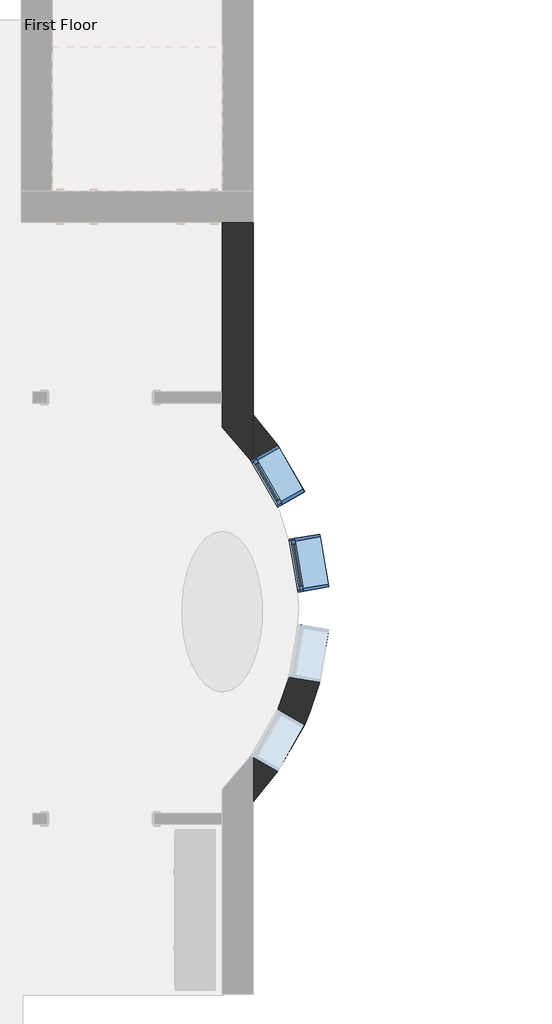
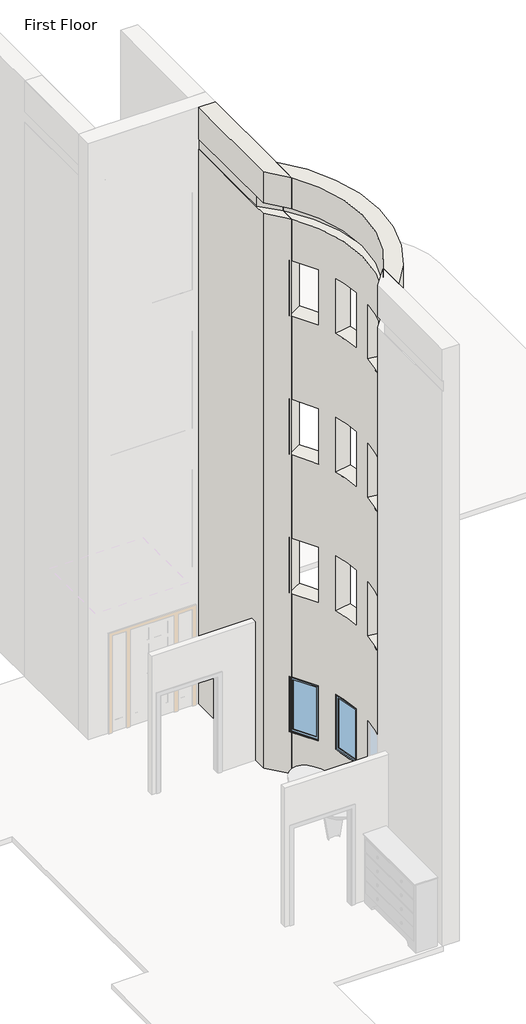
# One storey, part 10 of 24: 2 walls, 2 windows.
"""IFC4 building model written with IfcOpenShell, lengths in millimetres."""

from ifc_helpers import new_model, si_unit, frame, origin, place, context, project, spatial, polyline, circle_curve, transform, mapped, element, save
from ifc_brep_helpers import plane_surface, cylinder_surface, revolved_surface, advanced_brep
from components import window_ed80354a

model = new_model("IFC4")

# Units and contexts
model_context = context("Model", 3, world=origin())
ifc_project = project(units=[si_unit("LENGTHUNIT", "METRE", prefix="MILLI")], contexts=[model_context])

# Site, building, storey
site = spatial("IfcSite", under=ifc_project)
building = spatial("IfcBuilding", under=site)
storey = spatial("IfcBuildingStorey", under=building, Name="First Floor", Elevation=0.0)

# Walls
placement = place(None, origin())
element("IfcWall", 1, ObjectType="Exterior - Brick on Mtl. Stud", at=placement, inside=storey, context=model_context, shape_type="AdvancedBrep", body=[
    advanced_brep(
    [(-23874.3839563, -550.3808133, 0.0), (-23874.3839563, -2483.9558133, 0.0), (-23874.3839563, -2610.9558133, 0.0), (-23874.3839563, -2885.7839656, 0.0), (-23874.3839563, -2885.7839656, 12192.0), (-23874.3839563, -2610.9558133, 12192.0), (-23874.3839563, -2483.9558133, 12192.0), (-23874.3839563, -550.3808133, 12192.0), (-23874.3839563, -2885.7839656, 13106.4), (-23874.3839563, -550.3808133, 13106.4), (-23874.3839563, -550.3808133, 12420.6), (-23874.3839563, -2885.7839656, 12420.6), (-23521.9589563, -3299.6776635, 0.0), (-23521.9589563, -2741.7830793, 0.0), (-23521.9589563, -550.3808133, 0.0), (-23521.9589563, -550.3808133, 13106.4), (-23521.9589563, -2741.7830793, 13106.4), (-23521.9589563, -3299.6776635, 13106.4), (-23521.9589563, -3299.6776635, 12420.6), (-23521.9589563, -2991.1907425, 12420.6), (-23521.9589563, -2991.1907425, 12192.0), (-23521.9589563, -3299.6776635, 12192.0), (-23521.9589563, -3299.6776635, 11277.6), (-23521.9589563, -3250.3894156, 11277.6), (-23521.9589563, -3250.3894156, 10058.4), (-23521.9589563, -3299.6776635, 10058.4), (-23521.9589563, -3299.6776635, 8229.6), (-23521.9589563, -3250.3894156, 8229.6), (-23521.9589563, -3250.3894156, 7010.4), (-23521.9589563, -3299.6776635, 7010.4), (-23521.9589563, -3299.6776635, 5181.6), (-23521.9589563, -3250.3894156, 5181.6), (-23521.9589563, -3250.3894156, 3962.4), (-23521.9589563, -3299.6776635, 3962.4), (-23521.9589563, -3299.6776635, 2133.6), (-23521.9589563, -3250.3894156, 2133.6), (-23521.9589563, -3250.3894156, 914.4), (-23521.9589563, -3299.6776635, 914.4), (-23527.515008, -3291.7661617, 914.4), (-23527.515008, -3291.7661617, 2133.6), (-23527.515008, -3291.7661617, 3962.4), (-23527.515008, -3291.7661617, 5181.6), (-23527.515008, -3291.7661617, 7010.4), (-23527.515008, -3291.7661617, 8229.6), (-23527.515008, -3291.7661617, 10058.4), (-23527.515008, -3291.7661617, 11277.6), (-23861.6839563, -550.3808133, 12192.0), (-23861.6839563, -550.3808133, 12420.6), (-23543.9721676, -3262.9701473, 914.4), (-23543.9721676, -3262.9701473, 2133.6), (-23543.9721676, -3262.9701473, 10058.4), (-23543.9721676, -3262.9701473, 11277.6), (-23543.9721676, -3262.9701473, 3962.4), (-23543.9721676, -3262.9701473, 5181.6), (-23543.9721676, -3262.9701473, 7010.4), (-23543.9721676, -3262.9701473, 8229.6), (-23861.6839563, -2642.86294, 12192.0), (-23861.6839563, -2642.86294, 12420.6)],
    [
        (0, 1),
        (1, 2),
        (2, 3),
        (3, 4),
        (4, 5),
        (5, 6),
        (6, 7),
        (7, 0),
        (8, 9),
        (9, 10),
        (10, 11),
        (11, 8),
        (12, 13),
        (13, 14),
        (14, 15),
        (15, 16),
        (16, 17),
        (17, 18),
        (18, 19),
        (19, 20),
        (20, 21),
        (21, 22),
        (22, 23),
        (23, 24),
        (24, 25),
        (25, 26),
        (26, 27),
        (27, 28),
        (28, 29),
        (29, 30),
        (30, 31),
        (31, 32),
        (32, 33),
        (33, 34),
        (34, 35),
        (35, 36),
        (36, 37),
        (37, 12),
        (0, 14),
        (12, 3, circle_curve(frame((-25874.8788413, -4946.1683133, 0.0), z_axis=(0.0, 0.0, 1.0), x_axis=(0.0, 1.0, 0.0)), 2871.7875)),
        (8, 17, circle_curve(frame((-25874.8788413, -4946.1683133, 13106.4), z_axis=(0.0, 0.0, -1.0), x_axis=(0.0, 1.0, 0.0)), 2871.7875)),
        (15, 9),
        (37, 38, circle_curve(frame((-25874.8788413, -4946.1683133, 914.4), z_axis=(0.0, 0.0, 1.0), x_axis=(0.0, 1.0, 0.0)), 2871.7875)),
        (38, 39),
        (39, 34, circle_curve(frame((-25874.8788413, -4946.1683133, 2133.6), z_axis=(0.0, 0.0, -1.0), x_axis=(0.0, 1.0, 0.0)), 2871.7875)),
        (33, 40, circle_curve(frame((-25874.8788413, -4946.1683133, 3962.4), z_axis=(0.0, 0.0, 1.0), x_axis=(0.0, 1.0, 0.0)), 2871.7875)),
        (40, 41),
        (41, 30, circle_curve(frame((-25874.8788413, -4946.1683133, 5181.6), z_axis=(0.0, 0.0, -1.0), x_axis=(0.0, 1.0, 0.0)), 2871.7875)),
        (29, 42, circle_curve(frame((-25874.8788413, -4946.1683133, 7010.4), z_axis=(0.0, 0.0, 1.0), x_axis=(0.0, 1.0, 0.0)), 2871.7875)),
        (42, 43),
        (43, 26, circle_curve(frame((-25874.8788413, -4946.1683133, 8229.6), z_axis=(0.0, 0.0, -1.0), x_axis=(0.0, 1.0, 0.0)), 2871.7875)),
        (25, 44, circle_curve(frame((-25874.8788413, -4946.1683133, 10058.4), z_axis=(0.0, 0.0, 1.0), x_axis=(0.0, 1.0, 0.0)), 2871.7875)),
        (44, 45),
        (45, 22, circle_curve(frame((-25874.8788413, -4946.1683133, 11277.6), z_axis=(0.0, 0.0, -1.0), x_axis=(0.0, 1.0, 0.0)), 2871.7875)),
        (21, 4, circle_curve(frame((-25874.8788413, -4946.1683133, 12192.0), z_axis=(0.0, 0.0, 1.0), x_axis=(0.0, 1.0, 0.0)), 2871.7875)),
        (11, 18, circle_curve(frame((-25874.8788413, -4946.1683133, 12420.6), z_axis=(0.0, 0.0, -1.0), x_axis=(0.0, 1.0, 0.0)), 2871.7875)),
        (7, 46),
        (46, 47),
        (47, 10),
        (48, 49),
        (49, 39),
        (38, 48),
        (36, 48),
        (35, 49),
        (50, 51),
        (51, 45),
        (44, 50),
        (24, 50),
        (23, 51),
        (52, 53),
        (53, 41),
        (40, 52),
        (32, 52),
        (31, 53),
        (54, 55),
        (55, 43),
        (42, 54),
        (28, 54),
        (27, 55),
        (20, 56, circle_curve(frame((-25874.8788413, -4946.1683133, 12192.0), z_axis=(0.0, 0.0, 1.0), x_axis=(0.0, -1.0, 0.0)), 3059.1125)),
        (56, 46),
        (47, 57),
        (57, 19, circle_curve(frame((-25874.8788413, -4946.1683133, 12420.6), z_axis=(0.0, 0.0, -1.0), x_axis=(0.0, -1.0, 0.0)), 3059.1125)),
        (56, 57),
    ],
    [
        plane_surface(frame((-23874.3839563, -374.1683133, 0.0), z_axis=(-1.0, 0.0, 0.0), x_axis=(0.0, -1.0, 0.0))),
        plane_surface(frame((-23521.9589563, -374.1683133, 0.0), z_axis=(1.0, 0.0, 0.0), x_axis=(0.0, 1.0, 0.0))),
        plane_surface(frame((-23874.3839563, -374.1683133, 0.0), z_axis=(0.0, 0.0, -1.0), x_axis=(1.0, 0.0, 0.0))),
        plane_surface(frame((-23874.3839563, -2812.5683133, 13106.4), z_axis=(0.0, 0.0, 1.0), x_axis=(1.0, 0.0, 0.0))),
        revolved_surface(polyline([(-25874.8788413, -2074.3808132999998, 0.0), (-25874.8788413, -2074.3808132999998, 12192.0)]), (-25874.8788413, -4946.1683133, 0.0), (0.0, 0.0, -1.0)),
        revolved_surface(polyline([(-25874.8788413, -2074.3808132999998, 12420.6), (-25874.8788413, -2074.3808132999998, 13106.4)]), (-25874.8788413, -4946.1683133, 0.0), (0.0, 0.0, -1.0)),
        plane_surface(frame((-25984.1714563, -550.3808133, 0.0), z_axis=(0.0, 1.0, 0.0), x_axis=(1.0, 0.0, 0.0))),
        plane_surface(frame((-23241.4940834, -3792.2330013, 2133.6), z_axis=(0.8682133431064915, 0.49619108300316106, 0.0), x_axis=(0.0, 0.0, 1.0))),
        plane_surface(frame((-22936.8858198, -3618.1468675, 914.4), z_axis=(0.0, 0.0, 1.0000000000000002), x_axis=(-0.8682133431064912, -0.4961910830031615, 0.0))),
        plane_surface(frame((-23239.363904, -3088.8840135, 914.4), z_axis=(0.49619108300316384, -0.8682133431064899, 0.0), x_axis=(-0.8682133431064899, -0.49619108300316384, 0.0))),
        plane_surface(frame((-23239.363904, -3088.8840135, 2133.6), z_axis=(0.0, 0.0, -1.0000000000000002), x_axis=(-0.8682133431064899, -0.49619108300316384, 0.0))),
        plane_surface(frame((-23241.4940834, -3792.2330013, 11277.6), z_axis=(0.8682133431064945, 0.4961910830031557, 0.0), x_axis=(0.0, 0.0, 1.0))),
        plane_surface(frame((-22936.8858198, -3618.1468675, 10058.4), z_axis=(0.0, 0.0, 1.0), x_axis=(-0.8682133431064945, -0.4961910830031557, 0.0))),
        plane_surface(frame((-23239.363904, -3088.8840135, 10058.4), z_axis=(0.4961910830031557, -0.8682133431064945, 0.0), x_axis=(-0.8682133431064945, -0.4961910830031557, 0.0))),
        plane_surface(frame((-23239.363904, -3088.8840135, 11277.6), z_axis=(0.0, 0.0, -1.0), x_axis=(-0.8682133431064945, -0.4961910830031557, 0.0))),
        plane_surface(frame((-23241.4940834, -3792.2330013, 5181.6), z_axis=(0.8682133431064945, 0.4961910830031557, 0.0), x_axis=(0.0, 0.0, 1.0))),
        plane_surface(frame((-22936.8858198, -3618.1468675, 3962.4), z_axis=(0.0, 0.0, 1.0), x_axis=(-0.8682133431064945, -0.4961910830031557, 0.0))),
        plane_surface(frame((-23239.363904, -3088.8840135, 3962.4), z_axis=(0.4961910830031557, -0.8682133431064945, 0.0), x_axis=(-0.8682133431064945, -0.4961910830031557, 0.0))),
        plane_surface(frame((-23239.363904, -3088.8840135, 5181.6), z_axis=(0.0, 0.0, -1.0), x_axis=(-0.8682133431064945, -0.4961910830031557, 0.0))),
        plane_surface(frame((-23241.4940834, -3792.2330013, 8229.6), z_axis=(0.8682133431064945, 0.4961910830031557, 0.0), x_axis=(0.0, 0.0, 1.0))),
        plane_surface(frame((-22936.8858198, -3618.1468675, 7010.4), z_axis=(0.0, 0.0, 1.0), x_axis=(-0.8682133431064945, -0.4961910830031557, 0.0))),
        plane_surface(frame((-23239.363904, -3088.8840135, 7010.4), z_axis=(0.4961910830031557, -0.8682133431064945, 0.0), x_axis=(-0.8682133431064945, -0.4961910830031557, 0.0))),
        plane_surface(frame((-23239.363904, -3088.8840135, 8229.6), z_axis=(0.0, 0.0, -1.0), x_axis=(-0.8682133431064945, -0.4961910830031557, 0.0))),
        plane_surface(frame((-29630.6589563, -11640.6558133, 12192.0), z_axis=(0.0, 0.0, 1.0), x_axis=(1.0, 0.0, 0.0))),
        plane_surface(frame((-29630.6589563, -11640.6558133, 12420.6), z_axis=(0.0, 0.0, -1.0), x_axis=(1.0, 0.0, 0.0))),
        plane_surface(frame((-23861.6839563, -2642.86294, 12192.0), z_axis=(-1.0, 0.0, 0.0), x_axis=(0.0, 1.0, 0.0))),
        revolved_surface(polyline([(-25874.8788413, -8005.2808133, 12420.6), (-25874.8788413, -8005.2808133, 12192.0)]), (-25874.8788413, -4946.1683133, 12192.0), (0.0, 0.0, 1.0)),
    ],
    [
        (0, [[1, 2, 3, 4, 5, 6, 7, 8]]),
        (0, [[9, 10, 11, 12]]),
        (1, [[13, 14, 15, 16, 17, 18, 19, 20, 21, 22, 23, 24, 25, 26, 27, 28, 29, 30, 31, 32, 33, 34, 35, 36, 37, 38]]),
        (2, [[-3, -2, -1, 39, -14, -13, 40]]),
        (3, [[-9, 41, -17, -16, 42]]),
        (4, [[-40, -38, 43, 44, 45, -34, 46, 47, 48, -30, 49, 50, 51, -26, 52, 53, 54, -22, 55, -4]]),
        (5, [[-41, -12, 56, -18]]),
        (6, [[-42, -15, -39, -8, 57, 58, 59, -10]]),
        (7, [[60, 61, -44, 62]]),
        (8, [[63, -62, -43, -37]]),
        (9, [[-60, -63, -36, 64]]),
        (10, [[-64, -35, -45, -61]]),
        (11, [[65, 66, -53, 67]]),
        (12, [[68, -67, -52, -25]]),
        (13, [[-65, -68, -24, 69]]),
        (14, [[-69, -23, -54, -66]]),
        (15, [[70, 71, -47, 72]]),
        (16, [[73, -72, -46, -33]]),
        (17, [[-70, -73, -32, 74]]),
        (18, [[-74, -31, -48, -71]]),
        (19, [[75, 76, -50, 77]]),
        (20, [[78, -77, -49, -29]]),
        (21, [[-75, -78, -28, 79]]),
        (22, [[-79, -27, -51, -76]]),
        (23, [[80, 81, -57, -7, -6, -5, -55, -21]]),
        (24, [[82, 83, -19, -56, -11, -59]]),
        (25, [[84, -82, -58, -81]]),
        (26, [[-84, -80, -20, -83]]),
    ],
),
])
element("IfcWall", 2, ObjectType="Exterior - Brick on Mtl. Stud", at=placement, inside=storey, context=model_context, shape_type="AdvancedBrep", body=[
    advanced_brep(
    [(-23521.9589563, -3299.6776635, 13106.4), (-23521.9589563, -6592.6589631, 13106.4), (-23521.9589563, -7150.5535473, 13106.4), (-23521.9589563, -2741.7830793, 13106.4), (-23521.9589563, -6592.6589631, 0.0), (-23521.9589563, -3299.6776635, 0.0), (-23521.9589563, -2741.7830793, 0.0), (-23521.9589563, -7150.5535473, 0.0), (-23521.9589563, -3299.6776635, 12420.6), (-23521.9589563, -6592.6589631, 12420.6), (-23521.9589563, -6592.6589631, 914.4), (-23244.3988057, -6098.4435526, 914.4), (-23244.3988057, -6098.4435526, 2133.6), (-23521.9589563, -6592.6589631, 2133.6), (-23521.9589563, -6592.6589631, 3962.4), (-23244.3988057, -6098.4435526, 3962.4), (-23244.3988057, -6098.4435526, 5181.6), (-23521.9589563, -6592.6589631, 5181.6), (-23521.9589563, -6592.6589631, 7010.4), (-23244.3988057, -6098.4435526, 7010.4), (-23244.3988057, -6098.4435526, 8229.6), (-23521.9589563, -6592.6589631, 8229.6), (-23521.9589563, -6592.6589631, 10058.4), (-23244.3988057, -6098.4435526, 10058.4), (-23244.3988057, -6098.4435526, 11277.6), (-23521.9589563, -6592.6589631, 11277.6), (-23521.9589563, -6592.6589631, 12192.0), (-23521.9589563, -3299.6776635, 12192.0), (-23521.9589563, -3299.6776635, 11277.6), (-23244.3988057, -3793.893074, 11277.6), (-23244.3988057, -3793.893074, 10058.4), (-23521.9589563, -3299.6776635, 10058.4), (-23521.9589563, -3299.6776635, 8229.6), (-23244.3988057, -3793.893074, 8229.6), (-23244.3988057, -3793.893074, 7010.4), (-23521.9589563, -3299.6776635, 7010.4), (-23521.9589563, -3299.6776635, 5181.6), (-23244.3988057, -3793.893074, 5181.6), (-23244.3988057, -3793.893074, 3962.4), (-23521.9589563, -3299.6776635, 3962.4), (-23521.9589563, -3299.6776635, 2133.6), (-23244.3988057, -3793.893074, 2133.6), (-23244.3988057, -3793.893074, 914.4), (-23521.9589563, -3299.6776635, 914.4), (-23009.0115527, -4761.8638671, 8229.6), (-23009.0115527, -4761.8638671, 7010.4), (-23112.4803586, -4161.1090368, 7010.4), (-23112.4803586, -4161.1090368, 8229.6), (-23009.0115527, -5130.4727595, 7010.4), (-23009.0115527, -5130.4727595, 8229.6), (-23112.4803586, -5731.2275899, 8229.6), (-23112.4803586, -5731.2275899, 7010.4), (-23009.0115527, -4761.8638671, 5181.6), (-23009.0115527, -4761.8638671, 3962.4), (-23112.4803586, -4161.1090368, 3962.4), (-23112.4803586, -4161.1090368, 5181.6), (-23009.0115527, -5130.4727595, 3962.4), (-23009.0115527, -5130.4727595, 5181.6), (-23112.4803586, -5731.2275899, 5181.6), (-23112.4803586, -5731.2275899, 3962.4), (-23009.0115527, -4761.8638671, 11277.6), (-23009.0115527, -4761.8638671, 10058.4), (-23112.4803586, -4161.1090368, 10058.4), (-23112.4803586, -4161.1090368, 11277.6), (-23009.0115527, -5130.4727595, 10058.4), (-23009.0115527, -5130.4727595, 11277.6), (-23112.4803586, -5731.2275899, 11277.6), (-23112.4803586, -5731.2275899, 10058.4), (-23009.0115527, -4761.8638671, 2133.6), (-23009.0115527, -4761.8638671, 914.4), (-23112.4803586, -4161.1090368, 914.4), (-23112.4803586, -4161.1090368, 2133.6), (-23009.0115527, -5130.4727595, 914.4), (-23009.0115527, -5130.4727595, 2133.6), (-23112.4803586, -5731.2275899, 2133.6), (-23112.4803586, -5731.2275899, 914.4), (-22936.8719855, -6274.1976656, 2133.6), (-22936.8719855, -6274.1976656, 914.4), (-23239.3500697, -6803.4605195, 914.4), (-23239.3500697, -6803.4605195, 2133.6), (-22936.8719855, -3618.1389611, 914.4), (-22936.8719855, -3618.1389611, 2133.6), (-23239.3500697, -3088.8761071, 2133.6), (-23239.3500697, -3088.8761071, 914.4), (-22936.8719855, -6274.1976656, 11277.6), (-22936.8719855, -6274.1976656, 10058.4), (-23239.3500697, -6803.4605195, 10058.4), (-23239.3500697, -6803.4605195, 11277.6), (-22936.8719855, -3618.1389611, 10058.4), (-22936.8719855, -3618.1389611, 11277.6), (-23239.3500697, -3088.8761071, 11277.6), (-23239.3500697, -3088.8761071, 10058.4), (-22936.8719855, -6274.1976656, 5181.6), (-22936.8719855, -6274.1976656, 3962.4), (-23239.3500697, -6803.4605195, 3962.4), (-23239.3500697, -6803.4605195, 5181.6), (-22936.8719855, -3618.1389611, 3962.4), (-22936.8719855, -3618.1389611, 5181.6), (-23239.3500697, -3088.8761071, 5181.6), (-23239.3500697, -3088.8761071, 3962.4), (-22936.8719855, -6274.1976656, 8229.6), (-22936.8719855, -6274.1976656, 7010.4), (-23239.3500697, -6803.4605195, 7010.4), (-23239.3500697, -6803.4605195, 8229.6), (-22936.8719855, -3618.1389611, 7010.4), (-22936.8719855, -3618.1389611, 8229.6), (-23239.3500697, -3088.8761071, 8229.6), (-23239.3500697, -3088.8761071, 7010.4), (-22659.9445035, -4701.7435836, 7010.4), (-22659.9445035, -4701.7435836, 8229.6), (-22763.4133094, -4100.9887532, 8229.6), (-22763.4133094, -4100.9887532, 7010.4), (-22659.9445035, -5190.5930431, 8229.6), (-22659.9445035, -5190.5930431, 7010.4), (-22763.4133094, -5791.3478734, 7010.4), (-22763.4133094, -5791.3478734, 8229.6), (-22659.9445035, -4701.7435836, 3962.4), (-22659.9445035, -4701.7435836, 5181.6), (-22763.4133094, -4100.9887532, 5181.6), (-22763.4133094, -4100.9887532, 3962.4), (-22659.9445035, -5190.5930431, 5181.6), (-22659.9445035, -5190.5930431, 3962.4), (-22763.4133094, -5791.3478734, 3962.4), (-22763.4133094, -5791.3478734, 5181.6), (-22659.9445035, -4701.7435836, 10058.4), (-22659.9445035, -4701.7435836, 11277.6), (-22763.4133094, -4100.9887532, 11277.6), (-22763.4133094, -4100.9887532, 10058.4), (-22659.9445035, -5190.5930431, 11277.6), (-22659.9445035, -5190.5930431, 10058.4), (-22763.4133094, -5791.3478734, 10058.4), (-22763.4133094, -5791.3478734, 11277.6), (-22659.9445035, -4701.7435836, 914.4), (-22659.9445035, -4701.7435836, 2133.6), (-22763.4133094, -4100.9887532, 2133.6), (-22763.4133094, -4100.9887532, 914.4), (-22659.9445035, -5190.5930431, 2133.6), (-22659.9445035, -5190.5930431, 914.4), (-22763.4133094, -5791.3478734, 914.4), (-22763.4133094, -5791.3478734, 2133.6), (-23521.9589563, -3250.3894156, 914.4), (-23521.9589563, -3250.3894156, 2133.6), (-23521.9589563, -3250.3894156, 3962.4), (-23521.9589563, -3250.3894156, 5181.6), (-23521.9589563, -3250.3894156, 7010.4), (-23521.9589563, -3250.3894156, 8229.6), (-23521.9589563, -3250.3894156, 10058.4), (-23521.9589563, -3250.3894156, 11277.6), (-23521.9589563, -2991.1907425, 12192.0), (-23521.9589563, -2991.1907425, 12420.6), (-23521.9589563, -6901.1458841, 12420.6), (-23521.9589563, -6901.1458841, 12192.0), (-23521.9589563, -6641.947211, 11277.6), (-23521.9589563, -6641.947211, 10058.4), (-23521.9589563, -6641.947211, 8229.6), (-23521.9589563, -6641.947211, 7010.4), (-23521.9589563, -6641.947211, 5181.6), (-23521.9589563, -6641.947211, 3962.4), (-23521.9589563, -6641.947211, 2133.6), (-23521.9589563, -6641.947211, 914.4)],
    [
        (0, 1, circle_curve(frame((-25874.8788413, -4946.1683133, 13106.4), z_axis=(0.0, 0.0, -1.0), x_axis=(0.0, 1.0, 0.0)), 2871.7875)),
        (1, 2),
        (2, 3, circle_curve(frame((-25874.8788413, -4946.1683133, 13106.4), z_axis=(0.0, 0.0, 1.0), x_axis=(0.0, 1.0, 0.0)), 3224.2125)),
        (3, 0),
        (4, 5, circle_curve(frame((-25874.8788413, -4946.1683133, 0.0), z_axis=(0.0, 0.0, 1.0), x_axis=(0.0, 1.0, 0.0)), 2871.7875)),
        (5, 6),
        (6, 7, circle_curve(frame((-25874.8788413, -4946.1683133, 0.0), z_axis=(0.0, 0.0, -1.0), x_axis=(0.0, 1.0, 0.0)), 3224.2125)),
        (7, 4),
        (0, 8),
        (8, 9, circle_curve(frame((-25874.8788413, -4946.1683133, 12420.6), z_axis=(0.0, 0.0, -1.0), x_axis=(0.0, 1.0, 0.0)), 2871.7875)),
        (9, 1),
        (4, 10),
        (10, 11, circle_curve(frame((-25874.8788413, -4946.1683133, 914.4), z_axis=(0.0, 0.0, 1.0), x_axis=(0.0, 1.0, 0.0)), 2871.7875)),
        (11, 12),
        (12, 13, circle_curve(frame((-25874.8788413, -4946.1683133, 2133.6), z_axis=(0.0, 0.0, -1.0), x_axis=(0.0, 1.0, 0.0)), 2871.7875)),
        (13, 14),
        (14, 15, circle_curve(frame((-25874.8788413, -4946.1683133, 3962.4), z_axis=(0.0, 0.0, 1.0), x_axis=(0.0, 1.0, 0.0)), 2871.7875)),
        (15, 16),
        (16, 17, circle_curve(frame((-25874.8788413, -4946.1683133, 5181.6), z_axis=(0.0, 0.0, -1.0), x_axis=(0.0, 1.0, 0.0)), 2871.7875)),
        (17, 18),
        (18, 19, circle_curve(frame((-25874.8788413, -4946.1683133, 7010.4), z_axis=(0.0, 0.0, 1.0), x_axis=(0.0, 1.0, 0.0)), 2871.7875)),
        (19, 20),
        (20, 21, circle_curve(frame((-25874.8788413, -4946.1683133, 8229.6), z_axis=(0.0, 0.0, -1.0), x_axis=(0.0, 1.0, 0.0)), 2871.7875)),
        (21, 22),
        (22, 23, circle_curve(frame((-25874.8788413, -4946.1683133, 10058.4), z_axis=(0.0, 0.0, 1.0), x_axis=(0.0, 1.0, 0.0)), 2871.7875)),
        (23, 24),
        (24, 25, circle_curve(frame((-25874.8788413, -4946.1683133, 11277.6), z_axis=(0.0, 0.0, -1.0), x_axis=(0.0, 1.0, 0.0)), 2871.7875)),
        (25, 26),
        (26, 27, circle_curve(frame((-25874.8788413, -4946.1683133, 12192.0), z_axis=(0.0, 0.0, 1.0), x_axis=(0.0, 1.0, 0.0)), 2871.7875)),
        (27, 28),
        (28, 29, circle_curve(frame((-25874.8788413, -4946.1683133, 11277.6), z_axis=(0.0, 0.0, -1.0), x_axis=(0.0, 1.0, 0.0)), 2871.7875)),
        (29, 30),
        (30, 31, circle_curve(frame((-25874.8788413, -4946.1683133, 10058.4), z_axis=(0.0, 0.0, 1.0), x_axis=(0.0, 1.0, 0.0)), 2871.7875)),
        (31, 32),
        (32, 33, circle_curve(frame((-25874.8788413, -4946.1683133, 8229.6), z_axis=(0.0, 0.0, -1.0), x_axis=(0.0, 1.0, 0.0)), 2871.7875)),
        (33, 34),
        (34, 35, circle_curve(frame((-25874.8788413, -4946.1683133, 7010.4), z_axis=(0.0, 0.0, 1.0), x_axis=(0.0, 1.0, 0.0)), 2871.7875)),
        (35, 36),
        (36, 37, circle_curve(frame((-25874.8788413, -4946.1683133, 5181.6), z_axis=(0.0, 0.0, -1.0), x_axis=(0.0, 1.0, 0.0)), 2871.7875)),
        (37, 38),
        (38, 39, circle_curve(frame((-25874.8788413, -4946.1683133, 3962.4), z_axis=(0.0, 0.0, 1.0), x_axis=(0.0, 1.0, 0.0)), 2871.7875)),
        (39, 40),
        (40, 41, circle_curve(frame((-25874.8788413, -4946.1683133, 2133.6), z_axis=(0.0, 0.0, -1.0), x_axis=(0.0, 1.0, 0.0)), 2871.7875)),
        (41, 42),
        (42, 43, circle_curve(frame((-25874.8788413, -4946.1683133, 914.4), z_axis=(0.0, 0.0, 1.0), x_axis=(0.0, 1.0, 0.0)), 2871.7875)),
        (43, 5),
        (44, 45),
        (45, 46, circle_curve(frame((-25874.8788413, -4946.1683133, 7010.4), z_axis=(0.0, 0.0, 1.0), x_axis=(0.0, 1.0, 0.0)), 2871.7875)),
        (46, 47),
        (47, 44, circle_curve(frame((-25874.8788413, -4946.1683133, 8229.6), z_axis=(0.0, 0.0, -1.0), x_axis=(0.0, 1.0, 0.0)), 2871.7875)),
        (48, 49),
        (49, 50, circle_curve(frame((-25874.8788413, -4946.1683133, 8229.6), z_axis=(0.0, 0.0, -1.0), x_axis=(0.0, 1.0, 0.0)), 2871.7875)),
        (50, 51),
        (51, 48, circle_curve(frame((-25874.8788413, -4946.1683133, 7010.4), z_axis=(0.0, 0.0, 1.0), x_axis=(0.0, 1.0, 0.0)), 2871.7875)),
        (52, 53),
        (53, 54, circle_curve(frame((-25874.8788413, -4946.1683133, 3962.4), z_axis=(0.0, 0.0, 1.0), x_axis=(0.0, 1.0, 0.0)), 2871.7875)),
        (54, 55),
        (55, 52, circle_curve(frame((-25874.8788413, -4946.1683133, 5181.6), z_axis=(0.0, 0.0, -1.0), x_axis=(0.0, 1.0, 0.0)), 2871.7875)),
        (56, 57),
        (57, 58, circle_curve(frame((-25874.8788413, -4946.1683133, 5181.6), z_axis=(0.0, 0.0, -1.0), x_axis=(0.0, 1.0, 0.0)), 2871.7875)),
        (58, 59),
        (59, 56, circle_curve(frame((-25874.8788413, -4946.1683133, 3962.4), z_axis=(0.0, 0.0, 1.0), x_axis=(0.0, 1.0, 0.0)), 2871.7875)),
        (60, 61),
        (61, 62, circle_curve(frame((-25874.8788413, -4946.1683133, 10058.4), z_axis=(0.0, 0.0, 1.0), x_axis=(0.0, 1.0, 0.0)), 2871.7875)),
        (62, 63),
        (63, 60, circle_curve(frame((-25874.8788413, -4946.1683133, 11277.6), z_axis=(0.0, 0.0, -1.0), x_axis=(0.0, 1.0, 0.0)), 2871.7875)),
        (64, 65),
        (65, 66, circle_curve(frame((-25874.8788413, -4946.1683133, 11277.6), z_axis=(0.0, 0.0, -1.0), x_axis=(0.0, 1.0, 0.0)), 2871.7875)),
        (66, 67),
        (67, 64, circle_curve(frame((-25874.8788413, -4946.1683133, 10058.4), z_axis=(0.0, 0.0, 1.0), x_axis=(0.0, 1.0, 0.0)), 2871.7875)),
        (68, 69),
        (69, 70, circle_curve(frame((-25874.8788413, -4946.1683133, 914.4), z_axis=(0.0, 0.0, 1.0), x_axis=(0.0, 1.0, 0.0)), 2871.7875)),
        (70, 71),
        (71, 68, circle_curve(frame((-25874.8788413, -4946.1683133, 2133.6), z_axis=(0.0, 0.0, -1.0), x_axis=(0.0, 1.0, 0.0)), 2871.7875)),
        (72, 73),
        (73, 74, circle_curve(frame((-25874.8788413, -4946.1683133, 2133.6), z_axis=(0.0, 0.0, -1.0), x_axis=(0.0, 1.0, 0.0)), 2871.7875)),
        (74, 75),
        (75, 72, circle_curve(frame((-25874.8788413, -4946.1683133, 914.4), z_axis=(0.0, 0.0, 1.0), x_axis=(0.0, 1.0, 0.0)), 2871.7875)),
        (2, 7),
        (6, 3),
        (76, 77),
        (77, 78, circle_curve(frame((-25874.8788413, -4946.1683133, 914.4), z_axis=(0.0, 0.0, -1.0), x_axis=(0.0, 1.0, 0.0)), 3224.2125)),
        (78, 79),
        (79, 76, circle_curve(frame((-25874.8788413, -4946.1683133, 2133.6), z_axis=(0.0, 0.0, 1.0), x_axis=(0.0, 1.0, 0.0)), 3224.2125)),
        (80, 81),
        (81, 82, circle_curve(frame((-25874.8788413, -4946.1683133, 2133.6), z_axis=(0.0, 0.0, 1.0), x_axis=(0.0, 1.0, 0.0)), 3224.2125)),
        (82, 83),
        (83, 80, circle_curve(frame((-25874.8788413, -4946.1683133, 914.4), z_axis=(0.0, 0.0, -1.0), x_axis=(0.0, 1.0, 0.0)), 3224.2125)),
        (84, 85),
        (85, 86, circle_curve(frame((-25874.8788413, -4946.1683133, 10058.4), z_axis=(0.0, 0.0, -1.0), x_axis=(0.0, 1.0, 0.0)), 3224.2125)),
        (86, 87),
        (87, 84, circle_curve(frame((-25874.8788413, -4946.1683133, 11277.6), z_axis=(0.0, 0.0, 1.0), x_axis=(0.0, 1.0, 0.0)), 3224.2125)),
        (88, 89),
        (89, 90, circle_curve(frame((-25874.8788413, -4946.1683133, 11277.6), z_axis=(0.0, 0.0, 1.0), x_axis=(0.0, 1.0, 0.0)), 3224.2125)),
        (90, 91),
        (91, 88, circle_curve(frame((-25874.8788413, -4946.1683133, 10058.4), z_axis=(0.0, 0.0, -1.0), x_axis=(0.0, 1.0, 0.0)), 3224.2125)),
        (92, 93),
        (93, 94, circle_curve(frame((-25874.8788413, -4946.1683133, 3962.4), z_axis=(0.0, 0.0, -1.0), x_axis=(0.0, 1.0, 0.0)), 3224.2125)),
        (94, 95),
        (95, 92, circle_curve(frame((-25874.8788413, -4946.1683133, 5181.6), z_axis=(0.0, 0.0, 1.0), x_axis=(0.0, 1.0, 0.0)), 3224.2125)),
        (96, 97),
        (97, 98, circle_curve(frame((-25874.8788413, -4946.1683133, 5181.6), z_axis=(0.0, 0.0, 1.0), x_axis=(0.0, 1.0, 0.0)), 3224.2125)),
        (98, 99),
        (99, 96, circle_curve(frame((-25874.8788413, -4946.1683133, 3962.4), z_axis=(0.0, 0.0, -1.0), x_axis=(0.0, 1.0, 0.0)), 3224.2125)),
        (100, 101),
        (101, 102, circle_curve(frame((-25874.8788413, -4946.1683133, 7010.4), z_axis=(0.0, 0.0, -1.0), x_axis=(0.0, 1.0, 0.0)), 3224.2125)),
        (102, 103),
        (103, 100, circle_curve(frame((-25874.8788413, -4946.1683133, 8229.6), z_axis=(0.0, 0.0, 1.0), x_axis=(0.0, 1.0, 0.0)), 3224.2125)),
        (104, 105),
        (105, 106, circle_curve(frame((-25874.8788413, -4946.1683133, 8229.6), z_axis=(0.0, 0.0, 1.0), x_axis=(0.0, 1.0, 0.0)), 3224.2125)),
        (106, 107),
        (107, 104, circle_curve(frame((-25874.8788413, -4946.1683133, 7010.4), z_axis=(0.0, 0.0, -1.0), x_axis=(0.0, 1.0, 0.0)), 3224.2125)),
        (108, 109),
        (109, 110, circle_curve(frame((-25874.8788413, -4946.1683133, 8229.6), z_axis=(0.0, 0.0, 1.0), x_axis=(0.0, 1.0, 0.0)), 3224.2125)),
        (110, 111),
        (111, 108, circle_curve(frame((-25874.8788413, -4946.1683133, 7010.4), z_axis=(0.0, 0.0, -1.0), x_axis=(0.0, 1.0, 0.0)), 3224.2125)),
        (112, 113),
        (113, 114, circle_curve(frame((-25874.8788413, -4946.1683133, 7010.4), z_axis=(0.0, 0.0, -1.0), x_axis=(0.0, 1.0, 0.0)), 3224.2125)),
        (114, 115),
        (115, 112, circle_curve(frame((-25874.8788413, -4946.1683133, 8229.6), z_axis=(0.0, 0.0, 1.0), x_axis=(0.0, 1.0, 0.0)), 3224.2125)),
        (116, 117),
        (117, 118, circle_curve(frame((-25874.8788413, -4946.1683133, 5181.6), z_axis=(0.0, 0.0, 1.0), x_axis=(0.0, 1.0, 0.0)), 3224.2125)),
        (118, 119),
        (119, 116, circle_curve(frame((-25874.8788413, -4946.1683133, 3962.4), z_axis=(0.0, 0.0, -1.0), x_axis=(0.0, 1.0, 0.0)), 3224.2125)),
        (120, 121),
        (121, 122, circle_curve(frame((-25874.8788413, -4946.1683133, 3962.4), z_axis=(0.0, 0.0, -1.0), x_axis=(0.0, 1.0, 0.0)), 3224.2125)),
        (122, 123),
        (123, 120, circle_curve(frame((-25874.8788413, -4946.1683133, 5181.6), z_axis=(0.0, 0.0, 1.0), x_axis=(0.0, 1.0, 0.0)), 3224.2125)),
        (124, 125),
        (125, 126, circle_curve(frame((-25874.8788413, -4946.1683133, 11277.6), z_axis=(0.0, 0.0, 1.0), x_axis=(0.0, 1.0, 0.0)), 3224.2125)),
        (126, 127),
        (127, 124, circle_curve(frame((-25874.8788413, -4946.1683133, 10058.4), z_axis=(0.0, 0.0, -1.0), x_axis=(0.0, 1.0, 0.0)), 3224.2125)),
        (128, 129),
        (129, 130, circle_curve(frame((-25874.8788413, -4946.1683133, 10058.4), z_axis=(0.0, 0.0, -1.0), x_axis=(0.0, 1.0, 0.0)), 3224.2125)),
        (130, 131),
        (131, 128, circle_curve(frame((-25874.8788413, -4946.1683133, 11277.6), z_axis=(0.0, 0.0, 1.0), x_axis=(0.0, 1.0, 0.0)), 3224.2125)),
        (132, 133),
        (133, 134, circle_curve(frame((-25874.8788413, -4946.1683133, 2133.6), z_axis=(0.0, 0.0, 1.0), x_axis=(0.0, 1.0, 0.0)), 3224.2125)),
        (134, 135),
        (135, 132, circle_curve(frame((-25874.8788413, -4946.1683133, 914.4), z_axis=(0.0, 0.0, -1.0), x_axis=(0.0, 1.0, 0.0)), 3224.2125)),
        (136, 137),
        (137, 138, circle_curve(frame((-25874.8788413, -4946.1683133, 914.4), z_axis=(0.0, 0.0, -1.0), x_axis=(0.0, 1.0, 0.0)), 3224.2125)),
        (138, 139),
        (139, 136, circle_curve(frame((-25874.8788413, -4946.1683133, 2133.6), z_axis=(0.0, 0.0, 1.0), x_axis=(0.0, 1.0, 0.0)), 3224.2125)),
        (43, 140),
        (140, 141),
        (141, 40),
        (39, 142),
        (142, 143),
        (143, 36),
        (35, 144),
        (144, 145),
        (145, 32),
        (31, 146),
        (146, 147),
        (147, 28),
        (27, 148),
        (148, 149),
        (149, 8),
        (9, 150),
        (150, 151),
        (151, 26),
        (25, 152),
        (152, 153),
        (153, 22),
        (21, 154),
        (154, 155),
        (155, 18),
        (17, 156),
        (156, 157),
        (157, 14),
        (13, 158),
        (158, 159),
        (159, 10),
        (76, 12),
        (11, 77),
        (159, 78),
        (158, 79),
        (41, 81),
        (80, 42),
        (83, 140),
        (82, 141),
        (84, 24),
        (23, 85),
        (153, 86),
        (152, 87),
        (29, 89),
        (88, 30),
        (91, 146),
        (90, 147),
        (92, 16),
        (15, 93),
        (157, 94),
        (156, 95),
        (37, 97),
        (96, 38),
        (99, 142),
        (98, 143),
        (100, 20),
        (19, 101),
        (155, 102),
        (154, 103),
        (33, 105),
        (104, 34),
        (107, 144),
        (106, 145),
        (44, 109),
        (108, 45),
        (111, 46),
        (110, 47),
        (112, 49),
        (48, 113),
        (51, 114),
        (50, 115),
        (52, 117),
        (116, 53),
        (119, 54),
        (118, 55),
        (120, 57),
        (56, 121),
        (59, 122),
        (58, 123),
        (60, 125),
        (124, 61),
        (127, 62),
        (126, 63),
        (128, 65),
        (64, 129),
        (67, 130),
        (66, 131),
        (68, 133),
        (132, 69),
        (135, 70),
        (134, 71),
        (136, 73),
        (72, 137),
        (75, 138),
        (74, 139),
        (151, 148, circle_curve(frame((-25874.8788413, -4946.1683133, 12192.0), z_axis=(0.0, 0.0, 1.0), x_axis=(0.0, -1.0, 0.0)), 3059.1125)),
        (149, 150, circle_curve(frame((-25874.8788413, -4946.1683133, 12420.6), z_axis=(0.0, 0.0, -1.0), x_axis=(0.0, -1.0, 0.0)), 3059.1125)),
    ],
    [
        plane_surface(frame((-25874.8788413, -2074.3808133, 13106.4), z_axis=(0.0, 0.0, 1.0), x_axis=(1.0, 0.0, 0.0))),
        plane_surface(frame((-25874.8788413, -2074.3808133, 0.0), z_axis=(0.0, 0.0, -1.0), x_axis=(-1.0, 0.0, 0.0))),
        revolved_surface(polyline([(-25874.8788413, -2074.3808132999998, 12420.6), (-25874.8788413, -2074.3808132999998, 13106.4)]), (-25874.8788413, -4946.1683133, 0.0), (0.0, 0.0, -1.0)),
        revolved_surface(polyline([(-25874.8788413, -2074.3808132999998, 0.0), (-25874.8788413, -2074.3808132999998, 12192.0)]), (-25874.8788413, -4946.1683133, 0.0), (0.0, 0.0, -1.0)),
        cylinder_surface(frame((-25874.8788413, -4946.1683133, 0.0), z_axis=(0.0, 0.0, 1.0), x_axis=(0.0, 1.0, 0.0)), 3224.2125),
        plane_surface(frame((-23521.9589563, -374.1683133, 0.0), z_axis=(-1.0, 0.0, 0.0), x_axis=(0.0, 1.0, 0.0))),
        plane_surface(frame((-23521.9589563, -9518.1683133, 0.0), z_axis=(-1.0, 0.0, 0.0), x_axis=(0.0, 1.0, 0.0))),
        plane_surface(frame((-24261.5758531, -5517.1184846, 2133.6), z_axis=(-0.496191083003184, -0.8682133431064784, 0.0), x_axis=(0.8682133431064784, -0.496191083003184, 0.0))),
        plane_surface(frame((-24261.5758531, -5517.1184846, 914.4), z_axis=(0.0, 0.0, 1.0), x_axis=(0.8682133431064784, -0.496191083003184, 0.0))),
        plane_surface(frame((-24564.0539373, -6046.3813385, 914.4), z_axis=(0.496191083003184, 0.8682133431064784, 0.0), x_axis=(0.8682133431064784, -0.496191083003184, 0.0))),
        plane_surface(frame((-24564.0539373, -6046.3813385, 2133.6), z_axis=(0.0, 0.0, -1.0), x_axis=(0.8682133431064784, -0.496191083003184, 0.0))),
        plane_surface(frame((-21615.2615833, -2862.8277211, 2133.6), z_axis=(-0.49619108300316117, 0.8682133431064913, 0.0), x_axis=(-0.8682133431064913, -0.49619108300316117, 0.0))),
        plane_surface(frame((-21615.2615833, -2862.8277211, 914.4), z_axis=(0.0, 0.0, 1.0), x_axis=(-0.8682133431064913, -0.49619108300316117, 0.0))),
        plane_surface(frame((-21917.7396675, -2333.5648671, 914.4), z_axis=(0.496191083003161, -0.8682133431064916, 0.0), x_axis=(-0.8682133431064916, -0.496191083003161, 0.0))),
        plane_surface(frame((-21917.7396675, -2333.5648671, 2133.6), z_axis=(0.0, 0.0, -1.0000000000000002), x_axis=(-0.8682133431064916, -0.496191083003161, 0.0))),
        plane_surface(frame((-24261.5758531, -5517.1184846, 11277.6), z_axis=(-0.49619108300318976, -0.868213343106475, 0.0), x_axis=(0.868213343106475, -0.49619108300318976, 0.0))),
        plane_surface(frame((-24261.5758531, -5517.1184846, 10058.4), z_axis=(0.0, 0.0, 1.0), x_axis=(0.868213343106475, -0.49619108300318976, 0.0))),
        plane_surface(frame((-24564.0539373, -6046.3813385, 10058.4), z_axis=(0.49619108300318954, 0.8682133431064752, 0.0), x_axis=(0.8682133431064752, -0.49619108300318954, 0.0))),
        plane_surface(frame((-24564.0539373, -6046.3813385, 11277.6), z_axis=(0.0, 0.0, -1.0000000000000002), x_axis=(0.8682133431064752, -0.49619108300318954, 0.0))),
        plane_surface(frame((-21615.2615833, -2862.8277211, 11277.6), z_axis=(-0.4961910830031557, 0.8682133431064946, 0.0), x_axis=(-0.8682133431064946, -0.4961910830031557, 0.0))),
        plane_surface(frame((-21615.2615833, -2862.8277211, 10058.4), z_axis=(0.0, 0.0, 1.0000000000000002), x_axis=(-0.8682133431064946, -0.4961910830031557, 0.0))),
        plane_surface(frame((-21917.7396675, -2333.5648671, 10058.4), z_axis=(0.49619108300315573, -0.8682133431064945, 0.0), x_axis=(-0.8682133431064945, -0.49619108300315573, 0.0))),
        plane_surface(frame((-21917.7396675, -2333.5648671, 11277.6), z_axis=(0.0, 0.0, -1.0), x_axis=(-0.8682133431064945, -0.49619108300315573, 0.0))),
        plane_surface(frame((-24261.5758531, -5517.1184846, 5181.6), z_axis=(-0.49619108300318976, -0.868213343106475, 0.0), x_axis=(0.868213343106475, -0.49619108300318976, 0.0))),
        plane_surface(frame((-24261.5758531, -5517.1184846, 3962.4), z_axis=(0.0, 0.0, 1.0), x_axis=(0.868213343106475, -0.49619108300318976, 0.0))),
        plane_surface(frame((-24564.0539373, -6046.3813385, 3962.4), z_axis=(0.49619108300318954, 0.8682133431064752, 0.0), x_axis=(0.8682133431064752, -0.49619108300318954, 0.0))),
        plane_surface(frame((-24564.0539373, -6046.3813385, 5181.6), z_axis=(0.0, 0.0, -1.0000000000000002), x_axis=(0.8682133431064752, -0.49619108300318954, 0.0))),
        plane_surface(frame((-21615.2615833, -2862.8277211, 5181.6), z_axis=(-0.4961910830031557, 0.8682133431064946, 0.0), x_axis=(-0.8682133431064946, -0.4961910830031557, 0.0))),
        plane_surface(frame((-21615.2615833, -2862.8277211, 3962.4), z_axis=(0.0, 0.0, 1.0000000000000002), x_axis=(-0.8682133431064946, -0.4961910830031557, 0.0))),
        plane_surface(frame((-21917.7396675, -2333.5648671, 3962.4), z_axis=(0.49619108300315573, -0.8682133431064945, 0.0), x_axis=(-0.8682133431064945, -0.49619108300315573, 0.0))),
        plane_surface(frame((-21917.7396675, -2333.5648671, 5181.6), z_axis=(0.0, 0.0, -1.0), x_axis=(-0.8682133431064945, -0.49619108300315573, 0.0))),
        plane_surface(frame((-24261.5758531, -5517.1184846, 8229.6), z_axis=(-0.49619108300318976, -0.868213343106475, 0.0), x_axis=(0.868213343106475, -0.49619108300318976, 0.0))),
        plane_surface(frame((-24261.5758531, -5517.1184846, 7010.4), z_axis=(0.0, 0.0, 1.0), x_axis=(0.868213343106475, -0.49619108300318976, 0.0))),
        plane_surface(frame((-24564.0539373, -6046.3813385, 7010.4), z_axis=(0.49619108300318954, 0.8682133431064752, 0.0), x_axis=(0.8682133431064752, -0.49619108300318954, 0.0))),
        plane_surface(frame((-24564.0539373, -6046.3813385, 8229.6), z_axis=(0.0, 0.0, -1.0000000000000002), x_axis=(0.8682133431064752, -0.49619108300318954, 0.0))),
        plane_surface(frame((-21615.2615833, -2862.8277211, 8229.6), z_axis=(-0.4961910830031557, 0.8682133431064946, 0.0), x_axis=(-0.8682133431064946, -0.4961910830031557, 0.0))),
        plane_surface(frame((-21615.2615833, -2862.8277211, 7010.4), z_axis=(0.0, 0.0, 1.0000000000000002), x_axis=(-0.8682133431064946, -0.4961910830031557, 0.0))),
        plane_surface(frame((-21917.7396675, -2333.5648671, 7010.4), z_axis=(0.49619108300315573, -0.8682133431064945, 0.0), x_axis=(-0.8682133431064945, -0.49619108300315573, 0.0))),
        plane_surface(frame((-21917.7396675, -2333.5648671, 8229.6), z_axis=(0.0, 0.0, -1.0), x_axis=(-0.8682133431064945, -0.49619108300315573, 0.0))),
        plane_surface(frame((-23009.0115527, -4761.8638671, 8229.6), z_axis=(-0.16973229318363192, 0.9854902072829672, 0.0), x_axis=(0.9854902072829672, 0.16973229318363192, 0.0))),
        plane_surface(frame((-23009.0115527, -4761.8638671, 7010.4), z_axis=(0.0, 0.0, 1.0), x_axis=(0.9854902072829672, 0.16973229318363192, 0.0))),
        plane_surface(frame((-23112.4803586, -4161.1090368, 7010.4), z_axis=(0.1697322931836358, -0.9854902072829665, 0.0), x_axis=(0.9854902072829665, 0.1697322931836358, 0.0))),
        plane_surface(frame((-23112.4803586, -4161.1090368, 8229.6), z_axis=(0.0, 0.0, -1.0), x_axis=(0.9854902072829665, 0.1697322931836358, 0.0))),
        plane_surface(frame((-22659.9445035, -5190.5930431, 8229.6), z_axis=(-0.16973229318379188, -0.9854902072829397, 0.0), x_axis=(-0.9854902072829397, 0.16973229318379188, 0.0))),
        plane_surface(frame((-22659.9445035, -5190.5930431, 7010.4), z_axis=(0.0, 0.0, 1.0), x_axis=(-0.9854902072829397, 0.16973229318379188, 0.0))),
        plane_surface(frame((-22763.4133094, -5791.3478734, 7010.4), z_axis=(0.16973229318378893, 0.9854902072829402, 0.0), x_axis=(-0.9854902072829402, 0.16973229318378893, 0.0))),
        plane_surface(frame((-22763.4133094, -5791.3478734, 8229.6), z_axis=(0.0, 0.0, -1.0000000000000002), x_axis=(-0.9854902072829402, 0.16973229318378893, 0.0))),
        plane_surface(frame((-23009.0115527, -4761.8638671, 5181.6), z_axis=(-0.16973229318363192, 0.9854902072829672, 0.0), x_axis=(0.9854902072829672, 0.16973229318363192, 0.0))),
        plane_surface(frame((-23009.0115527, -4761.8638671, 3962.4), z_axis=(0.0, 0.0, 1.0), x_axis=(0.9854902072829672, 0.16973229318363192, 0.0))),
        plane_surface(frame((-23112.4803586, -4161.1090368, 3962.4), z_axis=(0.1697322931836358, -0.9854902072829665, 0.0), x_axis=(0.9854902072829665, 0.1697322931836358, 0.0))),
        plane_surface(frame((-23112.4803586, -4161.1090368, 5181.6), z_axis=(0.0, 0.0, -1.0), x_axis=(0.9854902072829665, 0.1697322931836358, 0.0))),
        plane_surface(frame((-22659.9445035, -5190.5930431, 5181.6), z_axis=(-0.16973229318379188, -0.9854902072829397, 0.0), x_axis=(-0.9854902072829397, 0.16973229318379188, 0.0))),
        plane_surface(frame((-22659.9445035, -5190.5930431, 3962.4), z_axis=(0.0, 0.0, 1.0), x_axis=(-0.9854902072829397, 0.16973229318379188, 0.0))),
        plane_surface(frame((-22763.4133094, -5791.3478734, 3962.4), z_axis=(0.16973229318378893, 0.9854902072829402, 0.0), x_axis=(-0.9854902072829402, 0.16973229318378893, 0.0))),
        plane_surface(frame((-22763.4133094, -5791.3478734, 5181.6), z_axis=(0.0, 0.0, -1.0000000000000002), x_axis=(-0.9854902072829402, 0.16973229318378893, 0.0))),
        plane_surface(frame((-23009.0115527, -4761.8638671, 11277.6), z_axis=(-0.16973229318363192, 0.9854902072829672, 0.0), x_axis=(0.9854902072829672, 0.16973229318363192, 0.0))),
        plane_surface(frame((-23009.0115527, -4761.8638671, 10058.4), z_axis=(0.0, 0.0, 1.0), x_axis=(0.9854902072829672, 0.16973229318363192, 0.0))),
        plane_surface(frame((-23112.4803586, -4161.1090368, 10058.4), z_axis=(0.1697322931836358, -0.9854902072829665, 0.0), x_axis=(0.9854902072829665, 0.1697322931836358, 0.0))),
        plane_surface(frame((-23112.4803586, -4161.1090368, 11277.6), z_axis=(0.0, 0.0, -1.0), x_axis=(0.9854902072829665, 0.1697322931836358, 0.0))),
        plane_surface(frame((-22659.9445035, -5190.5930431, 11277.6), z_axis=(-0.16973229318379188, -0.9854902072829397, 0.0), x_axis=(-0.9854902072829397, 0.16973229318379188, 0.0))),
        plane_surface(frame((-22659.9445035, -5190.5930431, 10058.4), z_axis=(0.0, 0.0, 1.0), x_axis=(-0.9854902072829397, 0.16973229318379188, 0.0))),
        plane_surface(frame((-22763.4133094, -5791.3478734, 10058.4), z_axis=(0.16973229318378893, 0.9854902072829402, 0.0), x_axis=(-0.9854902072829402, 0.16973229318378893, 0.0))),
        plane_surface(frame((-22763.4133094, -5791.3478734, 11277.6), z_axis=(0.0, 0.0, -1.0000000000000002), x_axis=(-0.9854902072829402, 0.16973229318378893, 0.0))),
        plane_surface(frame((-23009.0115527, -4761.8638671, 2133.6), z_axis=(-0.16973229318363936, 0.985490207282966, 0.0), x_axis=(0.985490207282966, 0.16973229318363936, 0.0))),
        plane_surface(frame((-23009.0115527, -4761.8638671, 914.4), z_axis=(0.0, 0.0, 1.0000000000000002), x_axis=(0.985490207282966, 0.16973229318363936, 0.0))),
        plane_surface(frame((-23112.4803586, -4161.1090368, 914.4), z_axis=(0.16973229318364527, -0.9854902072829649, 0.0), x_axis=(0.9854902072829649, 0.16973229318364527, 0.0))),
        plane_surface(frame((-23112.4803586, -4161.1090368, 2133.6), z_axis=(0.0, 0.0, -1.0), x_axis=(0.9854902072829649, 0.16973229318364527, 0.0))),
        plane_surface(frame((-22659.9445035, -5190.5930431, 2133.6), z_axis=(-0.16973229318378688, -0.9854902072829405, 0.0), x_axis=(-0.9854902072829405, 0.16973229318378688, 0.0))),
        plane_surface(frame((-22659.9445035, -5190.5930431, 914.4), z_axis=(0.0, 0.0, 1.0), x_axis=(-0.9854902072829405, 0.16973229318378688, 0.0))),
        plane_surface(frame((-22763.4133094, -5791.3478734, 914.4), z_axis=(0.169732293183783, 0.9854902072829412, 0.0), x_axis=(-0.9854902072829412, 0.169732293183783, 0.0))),
        plane_surface(frame((-22763.4133094, -5791.3478734, 2133.6), z_axis=(0.0, 0.0, -1.0), x_axis=(-0.9854902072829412, 0.169732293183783, 0.0))),
        plane_surface(frame((-29630.6589563, -11640.6558133, 12192.0), z_axis=(0.0, 0.0, 1.0), x_axis=(1.0, 0.0, 0.0))),
        plane_surface(frame((-29630.6589563, -11640.6558133, 12420.6), z_axis=(0.0, 0.0, -1.0), x_axis=(1.0, 0.0, 0.0))),
        revolved_surface(polyline([(-25874.8788413, -8005.2808133, 12420.6), (-25874.8788413, -8005.2808133, 12192.0)]), (-25874.8788413, -4946.1683133, 12192.0), (0.0, 0.0, 1.0)),
    ],
    [
        (0, [[1, 2, 3, 4]]),
        (1, [[5, 6, 7, 8]]),
        (2, [[-1, 9, 10, 11]]),
        (3, [[-5, 12, 13, 14, 15, 16, 17, 18, 19, 20, 21, 22, 23, 24, 25, 26, 27, 28, 29, 30, 31, 32, 33, 34, 35, 36, 37, 38, 39, 40, 41, 42, 43, 44, 45, 46], [47, 48, 49, 50], [51, 52, 53, 54], [55, 56, 57, 58], [59, 60, 61, 62], [63, 64, 65, 66], [67, 68, 69, 70], [71, 72, 73, 74], [75, 76, 77, 78]]),
        (4, [[-3, 79, -7, 80], [81, 82, 83, 84], [85, 86, 87, 88], [89, 90, 91, 92], [93, 94, 95, 96], [97, 98, 99, 100], [101, 102, 103, 104], [105, 106, 107, 108], [109, 110, 111, 112], [113, 114, 115, 116], [117, 118, 119, 120], [121, 122, 123, 124], [125, 126, 127, 128], [129, 130, 131, 132], [133, 134, 135, 136], [137, 138, 139, 140], [141, 142, 143, 144]]),
        (5, [[-4, -80, -6, -46, 145, 146, 147, -42, 148, 149, 150, -38, 151, 152, 153, -34, 154, 155, 156, -30, 157, 158, 159, -9]]),
        (6, [[-2, -11, 160, 161, 162, -28, 163, 164, 165, -24, 166, 167, 168, -20, 169, 170, 171, -16, 172, 173, 174, -12, -8, -79]]),
        (7, [[175, -14, 176, -81]]),
        (8, [[-176, -13, -174, 177, -82]]),
        (9, [[-177, -173, 178, -83]]),
        (10, [[-175, -84, -178, -172, -15]]),
        (11, [[179, -85, 180, -44]]),
        (12, [[-180, -88, 181, -145, -45]]),
        (13, [[-181, -87, 182, -146]]),
        (14, [[-179, -43, -147, -182, -86]]),
        (15, [[183, -26, 184, -89]]),
        (16, [[-184, -25, -165, 185, -90]]),
        (17, [[-185, -164, 186, -91]]),
        (18, [[-183, -92, -186, -163, -27]]),
        (19, [[187, -93, 188, -32]]),
        (20, [[-188, -96, 189, -154, -33]]),
        (21, [[-189, -95, 190, -155]]),
        (22, [[-187, -31, -156, -190, -94]]),
        (23, [[191, -18, 192, -97]]),
        (24, [[-192, -17, -171, 193, -98]]),
        (25, [[-193, -170, 194, -99]]),
        (26, [[-191, -100, -194, -169, -19]]),
        (27, [[195, -101, 196, -40]]),
        (28, [[-196, -104, 197, -148, -41]]),
        (29, [[-197, -103, 198, -149]]),
        (30, [[-195, -39, -150, -198, -102]]),
        (31, [[199, -22, 200, -105]]),
        (32, [[-200, -21, -168, 201, -106]]),
        (33, [[-201, -167, 202, -107]]),
        (34, [[-199, -108, -202, -166, -23]]),
        (35, [[203, -109, 204, -36]]),
        (36, [[-204, -112, 205, -151, -37]]),
        (37, [[-205, -111, 206, -152]]),
        (38, [[-203, -35, -153, -206, -110]]),
        (39, [[-47, 207, -113, 208]]),
        (40, [[-48, -208, -116, 209]]),
        (41, [[-49, -209, -115, 210]]),
        (42, [[-50, -210, -114, -207]]),
        (43, [[-117, 211, -51, 212]]),
        (44, [[-118, -212, -54, 213]]),
        (45, [[-119, -213, -53, 214]]),
        (46, [[-120, -214, -52, -211]]),
        (47, [[-55, 215, -121, 216]]),
        (48, [[-56, -216, -124, 217]]),
        (49, [[-57, -217, -123, 218]]),
        (50, [[-58, -218, -122, -215]]),
        (51, [[-125, 219, -59, 220]]),
        (52, [[-126, -220, -62, 221]]),
        (53, [[-127, -221, -61, 222]]),
        (54, [[-128, -222, -60, -219]]),
        (55, [[-63, 223, -129, 224]]),
        (56, [[-64, -224, -132, 225]]),
        (57, [[-65, -225, -131, 226]]),
        (58, [[-66, -226, -130, -223]]),
        (59, [[-133, 227, -67, 228]]),
        (60, [[-134, -228, -70, 229]]),
        (61, [[-135, -229, -69, 230]]),
        (62, [[-136, -230, -68, -227]]),
        (63, [[-71, 231, -137, 232]]),
        (64, [[-72, -232, -140, 233]]),
        (65, [[-73, -233, -139, 234]]),
        (66, [[-74, -234, -138, -231]]),
        (67, [[-141, 235, -75, 236]]),
        (68, [[-142, -236, -78, 237]]),
        (69, [[-143, -237, -77, 238]]),
        (70, [[-144, -238, -76, -235]]),
        (71, [[239, -157, -29, -162]]),
        (72, [[240, -160, -10, -159]]),
        (73, [[-239, -161, -240, -158]]),
    ],
),
])

# Windows
window_shape = window_ed80354a(model_context)
element("IfcWindow", 3, ObjectType="Fixed : 24\" x 48\"", at=placement, inside=storey, context=model_context, shape_type="MappedRepresentation", body=[
    mapped(window_shape, transform((-23223.7429238, -3474.9055042, 0.0), x_axis=(0.49619108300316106, -0.8682133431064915, 0.0), y_axis=(0.8682133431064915, 0.49619108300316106, 0.0), z_axis=(0.0, 0.0, 1.0))),
])
element("IfcWindow", 4, ObjectType="Fixed : 24\" x 48\"", at=placement, inside=storey, context=model_context, shape_type="MappedRepresentation", body=[
    mapped(window_shape, transform((-22880.6234621, -4469.1246771, 0.0), x_axis=(0.16973229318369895, -0.9854902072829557, 0.0), y_axis=(0.9854902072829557, 0.16973229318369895, 0.0), z_axis=(0.0, 0.0, 1.0))),
])

save(model, "model.ifc")
